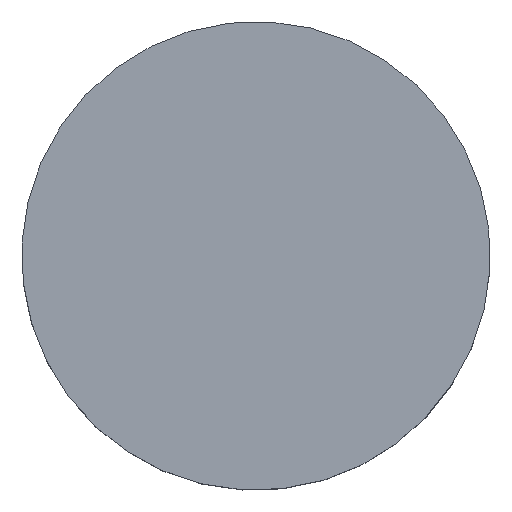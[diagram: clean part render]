
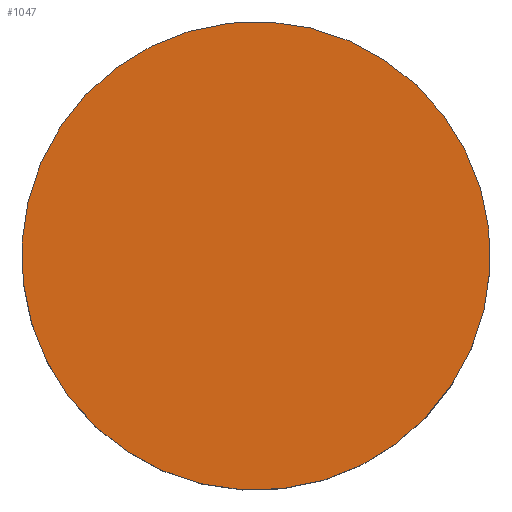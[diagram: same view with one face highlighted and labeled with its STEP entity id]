
A CAD part, top view. The second image highlights one B-rep face of the part: STEP entity #1047.
In plain terms, the highlighted planar face has unit normal (0, 0, 1) as drawn and (0, 0, -1) by its records, which use the part's own axes.
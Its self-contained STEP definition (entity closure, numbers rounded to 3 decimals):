
#31 = CARTESIAN_POINT ( 'NONE',  ( 0., 0., -9. ) ) ;
#53 = ORIENTED_EDGE ( 'NONE', *, *, #592, .F. ) ;
#592 = EDGE_CURVE ( 'NONE', #13166, #15613, #10138, .T. ) ;
#652 = AXIS2_PLACEMENT_3D ( 'NONE', #11163, #4245, #13933 ) ;
#1047 = ADVANCED_FACE ( 'NONE', ( #14198 ), #2848, .T. ) ;
#1444 = DIRECTION ( 'NONE',  ( 1., 0., 0. ) ) ;
#1644 = EDGE_LOOP ( 'NONE', ( #15284, #53 ) ) ;
#2848 = PLANE ( 'NONE',  #652 ) ;
#3071 = AXIS2_PLACEMENT_3D ( 'NONE', #31, #9732, #1444 ) ;
#4245 = DIRECTION ( 'NONE',  ( 0., 0., -1. ) ) ;
#4349 = CARTESIAN_POINT ( 'NONE',  ( 0., 0., -9. ) ) ;
#5731 = DIRECTION ( 'NONE',  ( 1., 0., 0. ) ) ;
#6969 = CARTESIAN_POINT ( 'NONE',  ( -35., 0., -9. ) ) ;
#7942 = CARTESIAN_POINT ( 'NONE',  ( 35., 0., -9. ) ) ;
#8183 = CIRCLE ( 'NONE', #3071, 35. ) ;
#9732 = DIRECTION ( 'NONE',  ( 0., 0., 1. ) ) ;
#10138 = CIRCLE ( 'NONE', #13426, 35. ) ;
#11163 = CARTESIAN_POINT ( 'NONE',  ( 0., 0., -9. ) ) ;
#13166 = VERTEX_POINT ( 'NONE', #6969 ) ;
#13426 = AXIS2_PLACEMENT_3D ( 'NONE', #4349, #14038, #5731 ) ;
#13933 = DIRECTION ( 'NONE',  ( -1., 0., 0. ) ) ;
#14038 = DIRECTION ( 'NONE',  ( 0., 0., 1. ) ) ;
#14198 = FACE_OUTER_BOUND ( 'NONE', #1644, .T. ) ;
#15284 = ORIENTED_EDGE ( 'NONE', *, *, #17558, .F. ) ;
#15613 = VERTEX_POINT ( 'NONE', #7942 ) ;
#17558 = EDGE_CURVE ( 'NONE', #15613, #13166, #8183, .T. ) ;
